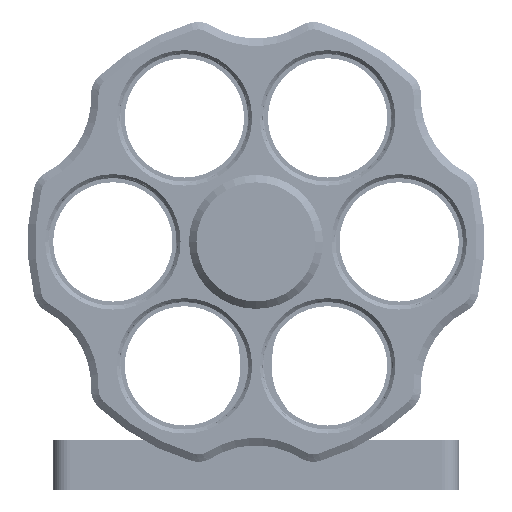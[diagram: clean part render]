
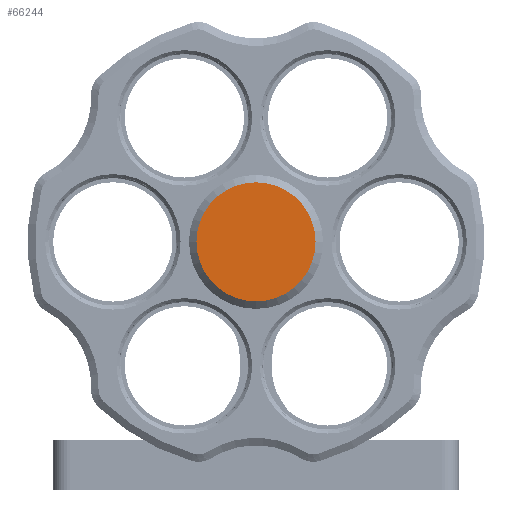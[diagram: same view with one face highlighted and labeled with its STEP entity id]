
A CAD part, front view. The second image highlights one B-rep face of the part: STEP entity #66244.
In plain terms, the highlighted planar face has unit normal (0, -1, 0) as drawn and (0, 1, 0) by its records, which use the part's own axes.
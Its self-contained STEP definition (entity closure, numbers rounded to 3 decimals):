
#64978=CARTESIAN_POINT('',(0.,8.,0.));
#64979=DIRECTION('',(0.,1.,0.));
#64980=DIRECTION('',(-1.,0.,0.));
#64981=AXIS2_PLACEMENT_3D('',#64978,#64979,#64980);
#64983=CARTESIAN_POINT('',(0.,8.,0.));
#64984=DIRECTION('',(0.,1.,0.));
#64985=DIRECTION('',(1.,0.,0.));
#64986=AXIS2_PLACEMENT_3D('',#64983,#64984,#64985);
#65075=CARTESIAN_POINT('',(-12.,8.,0.));
#65076=CARTESIAN_POINT('',(12.,8.,0.));
#65077=VERTEX_POINT('',#65075);
#65078=VERTEX_POINT('',#65076);
#66234=CARTESIAN_POINT('',(3.24,8.,0.));
#66235=DIRECTION('',(0.,1.,0.));
#66236=DIRECTION('',(-1.,0.,0.));
#66237=AXIS2_PLACEMENT_3D('',#66234,#66235,#66236);
#66238=PLANE('',#66237);
#66239=ORIENTED_EDGE('',*,*,#66224,.F.);
#66241=ORIENTED_EDGE('',*,*,#66240,.F.);
#66242=EDGE_LOOP('',(#66239,#66241));
#66243=FACE_OUTER_BOUND('',#66242,.F.);
#66244=ADVANCED_FACE('',(#66243),#66238,.T.);
#64982=CIRCLE('',#64981,12.);
#64987=CIRCLE('',#64986,12.);
#66224=EDGE_CURVE('',#65077,#65078,#64982,.T.);
#66240=EDGE_CURVE('',#65078,#65077,#64987,.T.);
